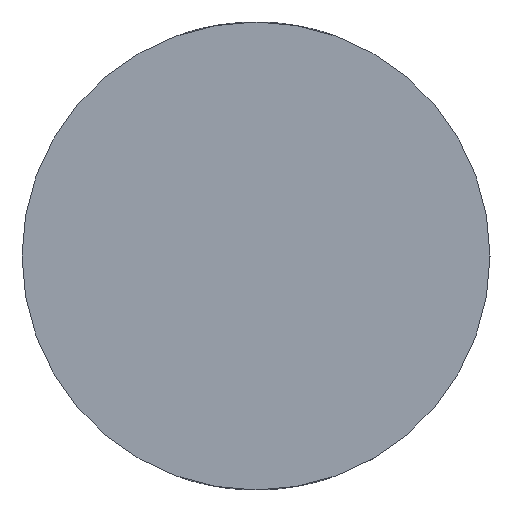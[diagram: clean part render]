
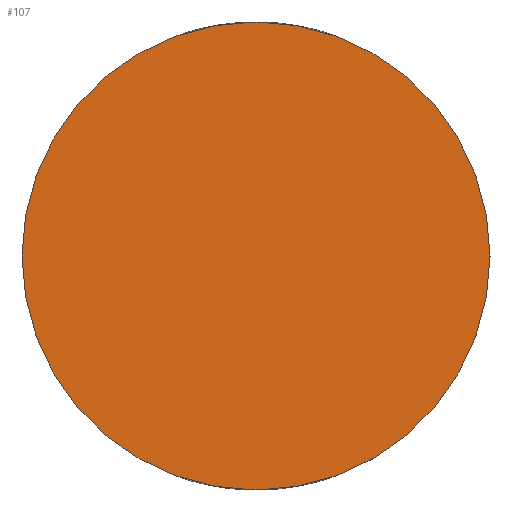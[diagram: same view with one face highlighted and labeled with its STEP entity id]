
A CAD part, left-side view. The second image highlights one B-rep face of the part: STEP entity #107.
In plain terms, the highlighted planar face has unit normal (-1, 0, 0).
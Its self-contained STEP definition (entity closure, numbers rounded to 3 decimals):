
#16=PLANE('',#128);
#22=CIRCLE('',#126,6.);
#27=FACE_OUTER_BOUND('',#36,.T.);
#36=EDGE_LOOP('',(#99));
#60=VERTEX_POINT('',#308);
#73=EDGE_CURVE('',#60,#60,#22,.T.);
#99=ORIENTED_EDGE('',*,*,#73,.F.);
#107=ADVANCED_FACE('',(#27),#16,.T.);
#126=AXIS2_PLACEMENT_3D('',#310,#142,#143);
#128=AXIS2_PLACEMENT_3D('',#312,#146,#147);
#142=DIRECTION('center_axis',(1.,0.,0.));
#143=DIRECTION('ref_axis',(0.,0.,-1.));
#146=DIRECTION('center_axis',(-1.,0.,0.));
#147=DIRECTION('ref_axis',(0.,0.,1.));
#308=CARTESIAN_POINT('',(-65.,-6.,0.));
#310=CARTESIAN_POINT('Origin',(-65.,0.,0.));
#312=CARTESIAN_POINT('Origin',(-65.,6.,0.));
